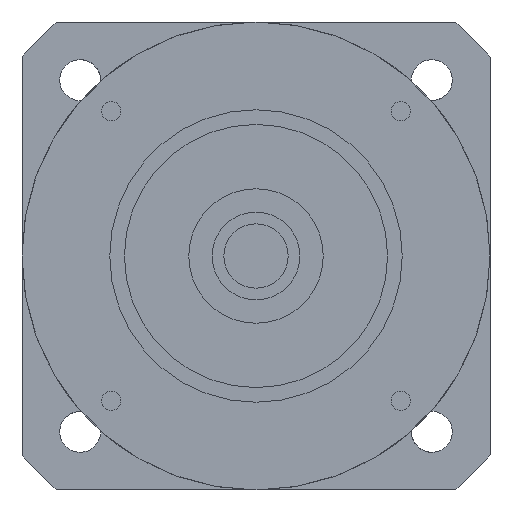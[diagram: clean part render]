
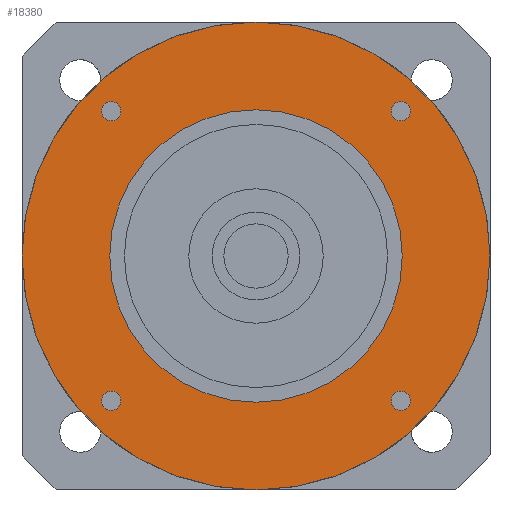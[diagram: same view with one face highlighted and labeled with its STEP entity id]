
A CAD part, left-side view. The second image highlights one B-rep face of the part: STEP entity #18380.
In plain terms, the highlighted planar face has unit normal (-1, 0, 0) as drawn and (0, 0, -1) by its records, which use the part's own axes.
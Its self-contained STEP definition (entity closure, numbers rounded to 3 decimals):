
#14150=CARTESIAN_POINT('',(23.099,24.749,-42.));
#14160=VERTEX_POINT('',#14150);
#14340=CARTESIAN_POINT('',(26.399,24.749,-42.));
#14350=VERTEX_POINT('',#14340);
#14380=CARTESIAN_POINT('',(24.749,24.749,-42.));
#14390=DIRECTION('',(0.,0.,-1.));
#14400=DIRECTION('',(1.,0.,0.));
#14410=AXIS2_PLACEMENT_3D('',#14380,#14390,#14400);
#14420=CIRCLE('',#14410,1.65);
#14430=EDGE_CURVE('',#14160,#14350,#14420,.T.);
#17400=CARTESIAN_POINT('',(-40.,0.,-42.));
#17410=VERTEX_POINT('',#17400);
#17440=CARTESIAN_POINT('',(0.,0.,-42.));
#17450=DIRECTION('',(0.,0.,-1.));
#17460=DIRECTION('',(1.,0.,0.));
#17470=AXIS2_PLACEMENT_3D('',#17440,#17450,#17460);
#17480=CIRCLE('',#17470,40.);
#17490=CARTESIAN_POINT('',(40.,0.,-42.));
#17500=VERTEX_POINT('',#17490);
#17510=EDGE_CURVE('',#17410,#17500,#17480,.T.);
#17630=CARTESIAN_POINT('',(0.,0.,-42.));
#17640=DIRECTION('',(0.,0.,1.));
#17650=DIRECTION('',(1.,0.,0.));
#17660=AXIS2_PLACEMENT_3D('',#17630,#17640,#17650);
#17670=PLANE('',#17660);
#17680=CARTESIAN_POINT('',(24.749,-24.749,-42.));
#17690=DIRECTION('',(0.,0.,-1.));
#17700=DIRECTION('',(1.,0.,0.));
#17710=AXIS2_PLACEMENT_3D('',#17680,#17690,#17700);
#17720=CIRCLE('',#17710,1.65);
#17730=CARTESIAN_POINT('',(26.399,-24.749,-42.));
#17740=VERTEX_POINT('',#17730);
#17750=CARTESIAN_POINT('',(23.099,-24.749,-42.));
#17760=VERTEX_POINT('',#17750);
#17770=EDGE_CURVE('',#17740,#17760,#17720,.T.);
#17780=ORIENTED_EDGE('',*,*,#17770,.F.);
#17790=EDGE_CURVE('',#17760,#17740,#17720,.T.);
#17800=ORIENTED_EDGE('',*,*,#17790,.F.);
#17810=EDGE_LOOP('',(#17800,#17780));
#17820=FACE_BOUND('',#17810,.T.);
#17830=CARTESIAN_POINT('',(0.,0.,-42.));
#17840=DIRECTION('',(0.,0.,1.));
#17850=DIRECTION('',(-1.,0.,0.));
#17860=AXIS2_PLACEMENT_3D('',#17830,#17840,#17850);
#17870=CIRCLE('',#17860,25.);
#17880=CARTESIAN_POINT('',(-25.,0.,-42.));
#17890=VERTEX_POINT('',#17880);
#17900=CARTESIAN_POINT('',(25.,0.,-42.));
#17910=VERTEX_POINT('',#17900);
#17920=EDGE_CURVE('',#17890,#17910,#17870,.T.);
#17930=ORIENTED_EDGE('',*,*,#17920,.T.);
#17940=EDGE_CURVE('',#17910,#17890,#17870,.T.);
#17950=ORIENTED_EDGE('',*,*,#17940,.T.);
#17960=EDGE_LOOP('',(#17950,#17930));
#17970=FACE_BOUND('',#17960,.T.);
#17980=CARTESIAN_POINT('',(-24.749,-24.749,-42.));
#17990=DIRECTION('',(0.,0.,-1.));
#18000=DIRECTION('',(1.,0.,0.));
#18010=AXIS2_PLACEMENT_3D('',#17980,#17990,#18000);
#18020=CIRCLE('',#18010,1.65);
#18030=CARTESIAN_POINT('',(-23.099,-24.749,-42.));
#18040=VERTEX_POINT('',#18030);
#18050=CARTESIAN_POINT('',(-26.399,-24.749,-42.));
#18060=VERTEX_POINT('',#18050);
#18070=EDGE_CURVE('',#18040,#18060,#18020,.T.);
#18080=ORIENTED_EDGE('',*,*,#18070,.F.);
#18090=EDGE_CURVE('',#18060,#18040,#18020,.T.);
#18100=ORIENTED_EDGE('',*,*,#18090,.F.);
#18110=EDGE_LOOP('',(#18100,#18080));
#18120=FACE_BOUND('',#18110,.T.);
#18130=CARTESIAN_POINT('',(-24.749,24.749,-42.));
#18140=DIRECTION('',(0.,0.,-1.));
#18150=DIRECTION('',(1.,0.,0.));
#18160=AXIS2_PLACEMENT_3D('',#18130,#18140,#18150);
#18170=CIRCLE('',#18160,1.65);
#18180=CARTESIAN_POINT('',(-23.099,24.749,-42.));
#18190=VERTEX_POINT('',#18180);
#18200=CARTESIAN_POINT('',(-26.399,24.749,-42.));
#18210=VERTEX_POINT('',#18200);
#18220=EDGE_CURVE('',#18190,#18210,#18170,.T.);
#18230=ORIENTED_EDGE('',*,*,#18220,.F.);
#18240=EDGE_CURVE('',#18210,#18190,#18170,.T.);
#18250=ORIENTED_EDGE('',*,*,#18240,.F.);
#18260=EDGE_LOOP('',(#18250,#18230));
#18270=FACE_BOUND('',#18260,.T.);
#18280=EDGE_CURVE('',#14350,#14160,#14420,.T.);
#18290=ORIENTED_EDGE('',*,*,#18280,.F.);
#18300=ORIENTED_EDGE('',*,*,#14430,.F.);
#18310=EDGE_LOOP('',(#18300,#18290));
#18320=FACE_BOUND('',#18310,.T.);
#18330=EDGE_CURVE('',#17500,#17410,#17480,.T.);
#18340=ORIENTED_EDGE('',*,*,#18330,.T.);
#18350=ORIENTED_EDGE('',*,*,#17510,.T.);
#18360=EDGE_LOOP('',(#18350,#18340));
#18370=FACE_OUTER_BOUND('',#18360,.T.);
#18380=ADVANCED_FACE('',(#17820,#17970,#18120,#18270,#18320,#18370),
#17670,.F.);
